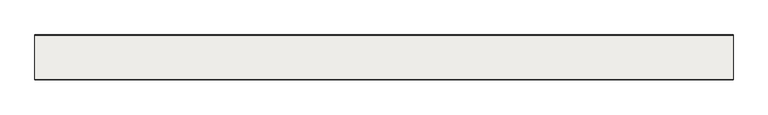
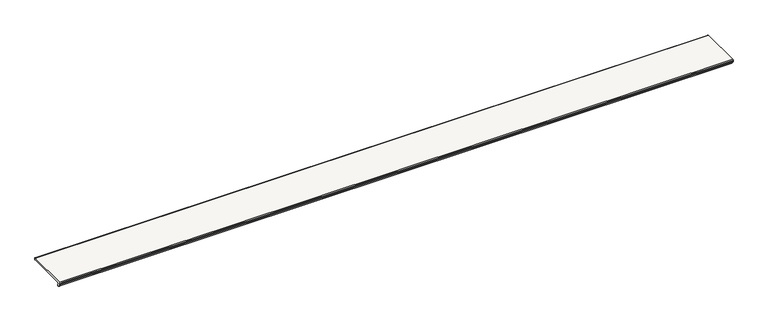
"""IFC4 building model written with IfcOpenShell, lengths in millimetres: slab geometry, ROSA GRES_J62 : Pieza J62_Tresor_Java_Anti-Slip."""

from ifc_helpers import new_model, si_unit, frame, origin, place, context, project, spatial, polyline, circle_curve, source, transform, mapped, element, save
from ifc_brep_helpers import plane_surface, cylinder_surface, revolved_surface, advanced_brep


def slab_8c668322(model_context):
    return source(origin(), model_context, "Body", "AdvancedBrep", [
        advanced_brep(
        [(4920.0, 317.0, 2.5), (4920.0, 317.0, 10.0774941), (4920.0, 314.2818333, 12.7946269), (4920.0, 3.9876034, 12.7946269), (4920.0, 0.0, 8.2984975), (4920.0, 0.0, -0.2793766), (4920.0, 0.7963935, -2.84429), (4920.0, 14.760096, -23.1626329), (4920.0, 17.666394, -25.1262743), (4920.0, 18.5721049, -25.1262743), (4920.0, 19.473321, -26.1221068), (4920.0, 20.3835268, -27.1188383), (4920.0, 26.7240304, -27.1188383), (4920.0, 29.4411632, -24.4017055), (4920.0, 29.4411632, -18.2354274), (4920.0, 24.5931401, -10.7276172), (4920.0, 29.6363327, 0.0), (4920.0, 314.5, 0.0), (0.0, 317.0, 2.5), (0.0, 314.5, 0.0), (0.0, 29.6363327, 0.0), (0.0, 24.5931401, -10.7276172), (0.0, 29.4411632, -18.2354274), (0.0, 29.4411632, -24.4017055), (0.0, 26.7240304, -27.1188383), (0.0, 20.3835268, -27.1188383), (0.0, 19.4823107, -26.1230058), (0.0, 18.5721049, -25.1262743), (0.0, 17.666394, -25.1262743), (0.0, 14.760096, -23.1626329), (0.0, 0.7963935, -2.84429), (0.0, 0.0, -0.2793766), (0.0, 0.0, 8.2984975), (0.0, 3.9876034, 12.7946269), (0.0, 314.2818333, 12.7946269), (0.0, 316.9989661, 10.0774941)],
        [
            (0, 1),
            (1, 2, circle_curve(frame((4920.0, 314.2818333, 10.0774941), z_axis=(1.0, 0.0, 0.0), x_axis=(0.0, -1.0, 0.0)), 2.7171328)),
            (2, 3),
            (3, 4, circle_curve(frame((4920.0, 4.5285547, 8.2984975), z_axis=(1.0, 0.0, 0.0), x_axis=(0.0, -1.0, 0.0)), 4.5285547)),
            (4, 5),
            (5, 6, circle_curve(frame((4920.0, 4.5285547, -0.2793766), z_axis=(1.0, 0.0, 0.0), x_axis=(0.0, -1.0, 0.0)), 4.5285547)),
            (6, 7),
            (7, 8, circle_curve(frame((4920.0, 18.9818017, -20.0468365), z_axis=(1.0, 0.0, 0.0), x_axis=(0.0, -1.0, 0.0)), 5.2469978)),
            (8, 9),
            (9, 10, circle_curve(frame((4920.0, 18.5721049, -26.0319852), z_axis=(-1.0, 0.0, 0.0), x_axis=(0.0, -1.0, 0.0)), 0.9057109)),
            (10, 11, circle_curve(frame((4920.0, 20.3835268, -26.2131274), z_axis=(1.0, 0.0, 0.0), x_axis=(0.0, -1.0, 0.0)), 0.9057109)),
            (11, 12),
            (12, 13, circle_curve(frame((4920.0, 26.7240304, -24.4017055), z_axis=(1.0, 0.0, 0.0), x_axis=(0.0, -1.0, 0.0)), 2.7171328)),
            (13, 14),
            (14, 15),
            (15, 16, circle_curve(frame((4920.0, 30.1604402, -6.7956336), z_axis=(-1.0, 0.0, 0.0), x_axis=(0.0, -1.0, 0.0)), 6.8158144)),
            (16, 17),
            (17, 0, circle_curve(frame((4920.0, 314.5, 2.5), z_axis=(1.0, 0.0, 0.0), x_axis=(0.0, -1.0, 0.0)), 2.5)),
            (18, 19, circle_curve(frame((0.0, 314.5, 2.5), z_axis=(-1.0, 0.0, 0.0), x_axis=(0.0, -1.0, 0.0)), 2.5)),
            (19, 20),
            (20, 21, circle_curve(frame((0.0, 30.1604402, -6.7956336), z_axis=(1.0, 0.0, 0.0), x_axis=(0.0, -1.0, 0.0)), 6.8158144)),
            (21, 22),
            (22, 23),
            (23, 24, circle_curve(frame((0.0, 26.7240304, -24.4017055), z_axis=(-1.0, 0.0, 0.0), x_axis=(0.0, -1.0, 0.0)), 2.7171328)),
            (24, 25),
            (25, 26, circle_curve(frame((0.0, 20.3835268, -26.2131274), z_axis=(-1.0, 0.0, 0.0), x_axis=(0.0, -1.0, 0.0)), 0.9057109)),
            (26, 27, circle_curve(frame((0.0, 18.5721049, -26.0319852), z_axis=(1.0, 0.0, 0.0), x_axis=(0.0, -1.0, 0.0)), 0.9057109)),
            (27, 28),
            (28, 29, circle_curve(frame((0.0, 18.9818017, -20.0468365), z_axis=(-1.0, 0.0, 0.0), x_axis=(0.0, -1.0, 0.0)), 5.2469978)),
            (29, 30),
            (30, 31, circle_curve(frame((0.0, 4.5285547, -0.2793766), z_axis=(-1.0, 0.0, 0.0), x_axis=(0.0, -1.0, 0.0)), 4.5285547)),
            (31, 32),
            (32, 33, circle_curve(frame((0.0, 4.5285547, 8.2984975), z_axis=(-1.0, 0.0, 0.0), x_axis=(0.0, -1.0, 0.0)), 4.5285547)),
            (33, 34),
            (34, 35, circle_curve(frame((0.0, 314.2818333, 10.0774941), z_axis=(-1.0, 0.0, 0.0), x_axis=(0.0, -1.0, 0.0)), 2.7171328)),
            (35, 18),
            (16, 20),
            (19, 17),
            (18, 0),
            (35, 1),
            (34, 2),
            (33, 3),
            (32, 4),
            (31, 5),
            (30, 6),
            (29, 7),
            (28, 8),
            (27, 9),
            (26, 10),
            (25, 11),
            (24, 12),
            (23, 13),
            (22, 14),
            (21, 15),
        ],
        [
            plane_surface(frame((4920.0, 317.0, 10.0774941), z_axis=(1.0, 0.0, 0.0), x_axis=(0.0, 0.0, 1.0))),
            plane_surface(frame((0.0, 317.0, 10.0774941), z_axis=(-1.0, 0.0, 0.0), x_axis=(0.0, 0.0, -1.0))),
            plane_surface(frame((4920.0, 29.6363327, 0.0), z_axis=(0.0, 0.0, -1.0), x_axis=(-1.0, 0.0, 0.0))),
            cylinder_surface(frame((0.0, 314.5, 2.5), z_axis=(1.0, 0.0, 0.0), x_axis=(0.0, -1.0, 0.0)), 2.5),
            plane_surface(frame((4920.0, 317.0, 2.5), z_axis=(0.0, 1.0, 0.0), x_axis=(-1.0, 0.0, 0.0))),
            cylinder_surface(frame((0.0, 314.2818333, 10.0774941), z_axis=(1.0, 0.0, 0.0), x_axis=(0.0, -1.0, 0.0)), 2.7171328),
            plane_surface(frame((4920.0, 314.2818333, 12.7946269), z_axis=(0.0, 0.0, 1.0), x_axis=(-1.0, 0.0, 0.0))),
            cylinder_surface(frame((0.0, 4.5285547, 8.2984975), z_axis=(1.0, 0.0, 0.0), x_axis=(0.0, -1.0, 0.0)), 4.5285547),
            plane_surface(frame((4920.0, 0.0, 8.2984975), z_axis=(0.0, -1.0, 0.0), x_axis=(-1.0, 0.0, 0.0))),
            cylinder_surface(frame((0.0, 4.5285547, -0.2793766), z_axis=(1.0, 0.0, 0.0), x_axis=(0.0, -1.0, 0.0)), 4.5285547),
            plane_surface(frame((4920.0, 0.7963935, -2.84429), z_axis=(0.0, -0.8241395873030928, -0.5663867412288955), x_axis=(-1.0, 0.0, 0.0))),
            cylinder_surface(frame((0.0, 18.9818017, -20.0468365), z_axis=(1.0, 0.0, 0.0), x_axis=(0.0, -1.0, 0.0)), 5.2469978),
            plane_surface(frame((4920.0, 17.666394, -25.1262743), z_axis=(0.0, 0.0, -1.0), x_axis=(-1.0, 0.0, 0.0))),
            revolved_surface(polyline([(0.0, 17.666394, -26.0319852), (4920.0, 17.666394, -26.0319852)]), (0.0, 18.5721049, -26.0319852), (-1.0, 0.0, 0.0)),
            cylinder_surface(frame((0.0, 20.3835268, -26.2131274), z_axis=(1.0, 0.0, 0.0), x_axis=(0.0, -1.0, 0.0)), 0.9057109),
            plane_surface(frame((4920.0, 20.3835268, -27.1188383), z_axis=(0.0, 0.0, -1.0), x_axis=(-1.0, 0.0, 0.0))),
            cylinder_surface(frame((0.0, 26.7240304, -24.4017055), z_axis=(1.0, 0.0, 0.0), x_axis=(0.0, -1.0, 0.0)), 2.7171328),
            plane_surface(frame((4920.0, 29.4411632, -24.4017055), z_axis=(0.0, 1.0, 0.0), x_axis=(-1.0, 0.0, 0.0))),
            plane_surface(frame((4920.0, 29.4411632, -18.2354274), z_axis=(0.0, 0.8400786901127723, 0.5424645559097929), x_axis=(-1.0, 0.0, 0.0))),
            revolved_surface(polyline([(0.0, 23.3446258, -6.7956336), (4920.0, 23.3446258, -6.7956336)]), (0.0, 30.1604402, -6.7956336), (-1.0, 0.0, 0.0)),
        ],
        [
            (0, [[1, 2, 3, 4, 5, 6, 7, 8, 9, 10, 11, 12, 13, 14, 15, 16, 17, 18]]),
            (1, [[19, 20, 21, 22, 23, 24, 25, 26, 27, 28, 29, 30, 31, 32, 33, 34, 35, 36]]),
            (2, [[-17, 37, -20, 38]]),
            (3, [[-18, -38, -19, 39]]),
            (4, [[-1, -39, -36, 40]]),
            (5, [[-2, -40, -35, 41]]),
            (6, [[-3, -41, -34, 42]]),
            (7, [[-4, -42, -33, 43]]),
            (8, [[-5, -43, -32, 44]]),
            (9, [[-6, -44, -31, 45]]),
            (10, [[-7, -45, -30, 46]]),
            (11, [[-8, -46, -29, 47]]),
            (12, [[-9, -47, -28, 48]]),
            (13, [[-10, -48, -27, 49]]),
            (14, [[-11, -49, -26, 50]]),
            (15, [[-12, -50, -25, 51]]),
            (16, [[-13, -51, -24, 52]]),
            (17, [[-14, -52, -23, 53]]),
            (18, [[-15, -53, -22, 54]]),
            (19, [[-16, -54, -21, -37]]),
        ],
    ),
    ])


if __name__ == "__main__":
    model = new_model("IFC4")
    model_context = context("Model", 3, world=origin())
    ifc_project = project(units=[si_unit("LENGTHUNIT", "METRE", prefix="MILLI")], contexts=[model_context])
    site = spatial("IfcSite", under=ifc_project)
    building = spatial("IfcBuilding", under=site)
    placement = place(None, origin())
    slab_shape = slab_8c668322(model_context)
    element("IfcSlab", 1, ObjectType="ROSA GRES_J62 : Pieza J62_Tresor_Java_Anti-Slip", at=placement, inside=building, context=model_context, shape_type="MappedRepresentation", body=[
        mapped(slab_shape, transform((0.0, 0.0, 0.0), x_axis=(1.0, 0.0, 0.0), y_axis=(0.0, 1.0, 0.0), z_axis=(0.0, 0.0, 1.0))),
    ])
    save(model, "model.ifc")
